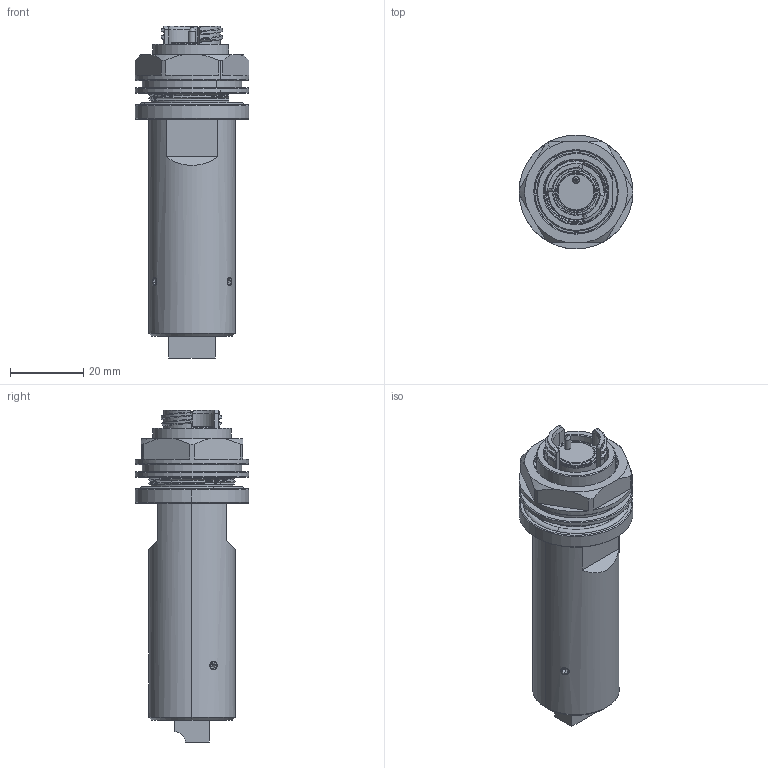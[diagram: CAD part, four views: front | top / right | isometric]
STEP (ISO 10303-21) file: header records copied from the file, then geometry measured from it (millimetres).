
FILE_DESCRIPTION (( 'STEP AP214' ), '1' );
FILE_NAME ('QMICROLC-RJXX-02XX-XX.STEP', '2025-05-02T23:42:27', ( '' ), ( '' ), 'SwSTEP 2.0', 'SolidWorks 2024', '' );
FILE_SCHEMA (( 'AUTOMOTIVE_DESIGN' ));
Length unit declared in the file: inch
Products named in the file (1): QMICROLC-RJXX-02XX-XX
Bounding box: 31 x 31 x 90.37 mm (x, y, z)
Volume: 34586.1 mm3; surface area: 15562.2 mm2
Topology: 1 solids, 12 shells, 556 faces, 1513 edges, 975 vertices
Faces by surface type: plane 218, cylinder 176, cone 112, bspline 34, torus 16
Entity records: 25963 total; most frequent: CARTESIAN_POINT 12321, ORIENTED_EDGE 3026, DIRECTION 2682, EDGE_CURVE 1513, VERTEX_POINT 975, AXIS2_PLACEMENT_3D 940, LINE 802, VECTOR 802
